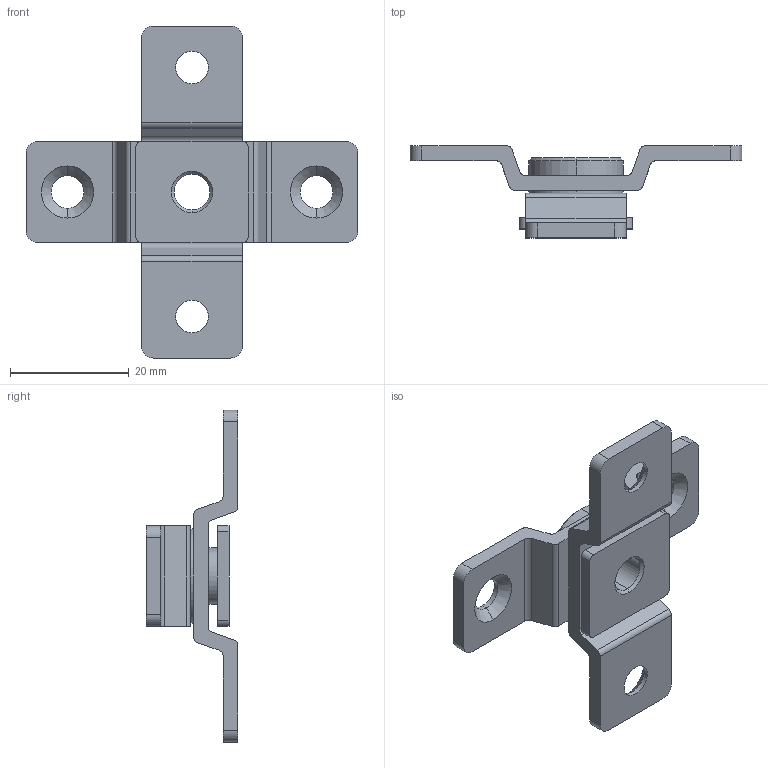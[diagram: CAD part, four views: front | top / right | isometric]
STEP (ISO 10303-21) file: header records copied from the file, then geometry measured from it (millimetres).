
FILE_DESCRIPTION (( 'STEP AP203' ), '1' );
FILE_NAME ('XG11-012-2.STEP', '2023-12-04T06:35:01', ( '' ), ( '' ), 'SwSTEP 2.0', 'SolidWorks 2020', '' );
FILE_SCHEMA (( 'CONFIG_CONTROL_DESIGN' ));
Length unit declared in the file: millimetre
Products named in the file (4): 錨璃2; 錨璃1; 錨璃3; XG11-012-2
Assembly tree (3 placements, depth 2):
  XG11-012-2
    錨璃1
    錨璃2
    錨璃3
Bounding box: 56 x 15.5 x 56 mm (x, y, z)
Volume: 6099.3 mm3; surface area: 6625.7 mm2
Topology: 3 solids, 3 shells, 102 faces, 262 edges, 170 vertices
Faces by surface type: cylinder 50, plane 38, cone 14
Entity records: 3570 total; most frequent: DIRECTION 592, CARTESIAN_POINT 540, ORIENTED_EDGE 524, EDGE_CURVE 262, AXIS2_PLACEMENT_3D 222, VERTEX_POINT 170, LINE 148, VECTOR 148
